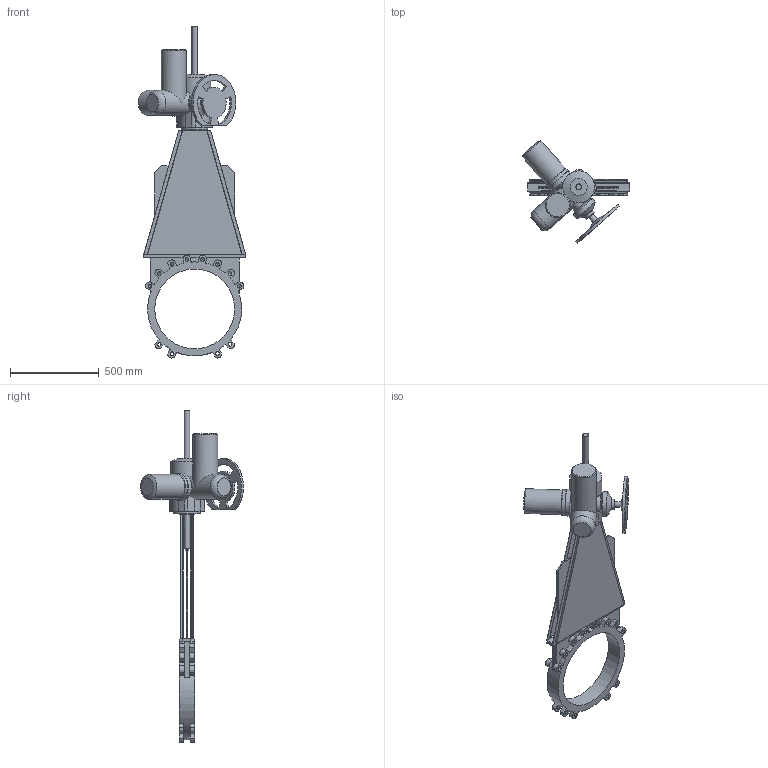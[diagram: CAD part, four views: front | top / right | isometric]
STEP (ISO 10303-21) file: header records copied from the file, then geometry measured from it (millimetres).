
FILE_DESCRIPTION(('STEP AP203'), '1');
FILE_NAME('K21GVA_DN450+MT903.A 30', '', ('UNSPECIFIED'), ('UNSPECIFIED'), 'ASCON STEP Converter 1.6', 'ASCON Math Kernel', '');
FILE_SCHEMA(('CONFIG_CONTROL_DESIGN'));
Length unit declared in the file: millimetre
Bounding box: 605.29 x 580.06 x 1871.44 mm (x, y, z)
Volume: 32591746.9 mm3; surface area: 2989723.4 mm2
Topology: 1 solids, 1 shells, 376 faces, 1040 edges, 672 vertices
Faces by surface type: plane 196, cylinder 149, cone 30, torus 1
Full cylindrical faces by diameter (mm): 10.106 x4, 14 x8, 20.752 x24, 32 x3, 60 x1, 80 x1, 100 x1, 140 x4, 147 x1, 150 x1, 151 x1, 450 x1
Entity records: 15529 total; most frequent: CARTESIAN_POINT 3031, DIRECTION 2021, ORIENTED_EDGE 1880, EDGE_CURVE 940, AXIS2_PLACEMENT_3D 735, VERTEX_POINT 652, LINE 551, VECTOR 551
